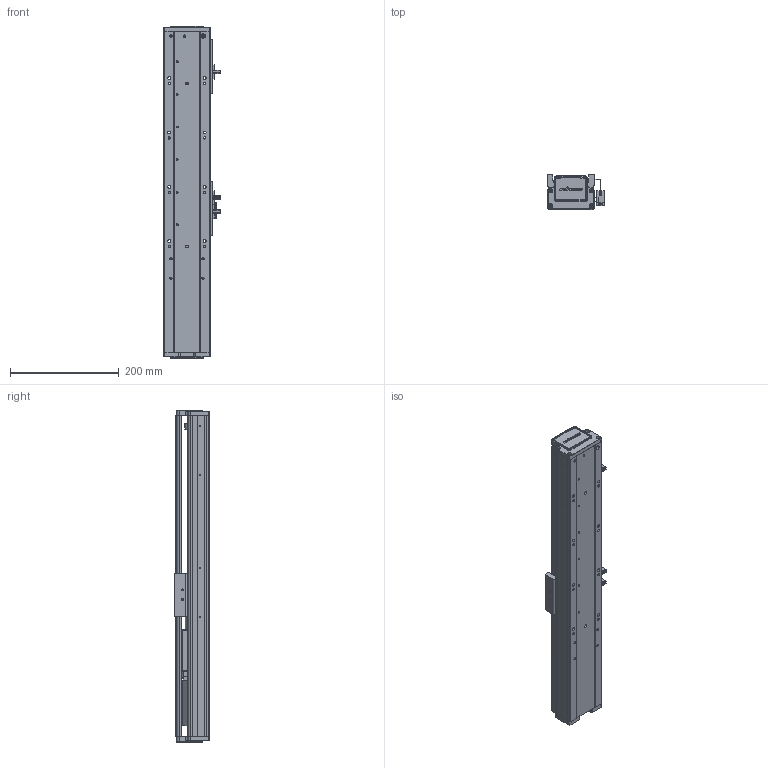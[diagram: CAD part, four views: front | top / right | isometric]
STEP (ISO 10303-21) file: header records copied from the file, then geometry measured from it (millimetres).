
FILE_DESCRIPTION (( 'STEP AP203' ), '1' );
FILE_NAME ('RY80-L1620-300-IK.SLDASM_250.step', '2021-02-22T05:28:42', ( '盈信电脑' ), ( '东莞市道滘镇水果街19号' ), 'SwSTEP 2.0', 'SolidWorks 2012', '' );
FILE_SCHEMA (( 'CONFIG_CONTROL_DESIGN' ));
Length unit declared in the file: millimetre
Products named in the file (14): RY80囀离ヶ啣; RY80-L1620-300-IK.SLDASM_250; 滅袉蝶18-24; RY80囀离萇儂啣; RY80俋离覜茼え; 侂狟100W; 覜茼ん672; 滅袉蝶18-10; RY80綴裔啣; 672嫖萇羲壽假蚾釱; RY80萇儂傷盓傅釱; RY80-300倰第奻裔啣-IK_250; RY80臏賑輸; RY80-300倰第菁釱-IK_250
Assembly tree (16 placements, depth 2):
  RY80-L1620-300-IK.SLDASM_250
    RY80-300倰第菁釱-IK_250
    RY80臏賑輸
    RY80-300倰第奻裔啣-IK_250
    RY80萇儂傷盓傅釱
    RY80綴裔啣
    滅袉蝶18-10
    672嫖萇羲壽假蚾釱  x2
    覜茼ん672  x3
    RY80俋离覜茼え
    侂狟100W
    RY80囀离萇儂啣
    RY80囀离ヶ啣
    滅袉蝶18-24
Bounding box: 103.7 x 65 x 611 mm (x, y, z)
Volume: 1210895 mm3; surface area: 488879.4 mm2
Topology: 16 solids, 16 shells, 1969 faces, 5434 edges, 3543 vertices
Faces by surface type: plane 1250, cylinder 584, cone 91, bspline 44
Entity records: 60929 total; most frequent: CARTESIAN_POINT 14647, ORIENTED_EDGE 9588, DIRECTION 8755, EDGE_CURVE 4794, LINE 3337, VECTOR 3337, VERTEX_POINT 3159, AXIS2_PLACEMENT_3D 2709
